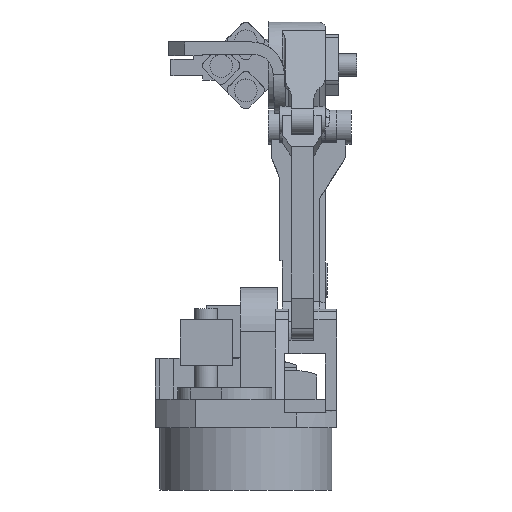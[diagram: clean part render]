
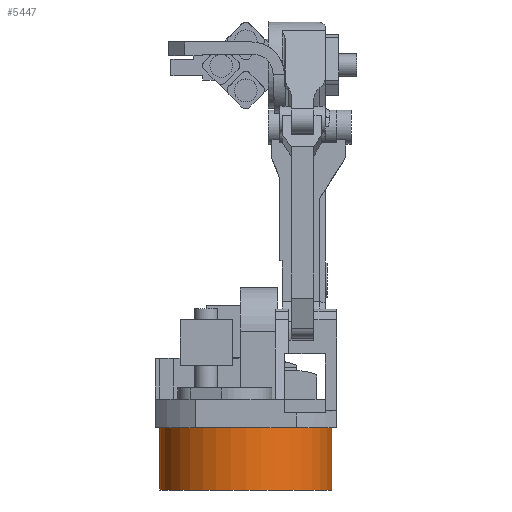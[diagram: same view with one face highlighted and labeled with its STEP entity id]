
A CAD part, left-side view. The second image highlights one B-rep face of the part: STEP entity #5447.
In plain terms, the highlighted cylindrical face has radius 380 mm (diameter 760 mm), a full revolution.
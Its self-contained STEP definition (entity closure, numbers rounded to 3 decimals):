
#161=LINE('',#8160,#736);
#736=VECTOR('',#6468,380.);
#1311=CYLINDRICAL_SURFACE('',#5899,380.);
#1397=FACE_OUTER_BOUND('',#1723,.T.);
#1723=EDGE_LOOP('',(#3602,#3603,#3604,#3605));
#2072=CIRCLE('',#5896,380.);
#2073=CIRCLE('',#5898,380.);
#2272=VERTEX_POINT('',#8154);
#2273=VERTEX_POINT('',#8157);
#2793=EDGE_CURVE('',#2272,#2272,#2072,.T.);
#2794=EDGE_CURVE('',#2273,#2273,#2073,.T.);
#2795=EDGE_CURVE('',#2272,#2273,#161,.T.);
#3602=ORIENTED_EDGE('',*,*,#2793,.F.);
#3603=ORIENTED_EDGE('',*,*,#2795,.T.);
#3604=ORIENTED_EDGE('',*,*,#2794,.T.);
#3605=ORIENTED_EDGE('',*,*,#2795,.F.);
#5447=ADVANCED_FACE('',(#1397),#1311,.T.);
#5896=AXIS2_PLACEMENT_3D('',#8155,#6460,#6461);
#5898=AXIS2_PLACEMENT_3D('',#8158,#6464,#6465);
#5899=AXIS2_PLACEMENT_3D('',#8159,#6466,#6467);
#6460=DIRECTION('center_axis',(0.,0.,1.));
#6461=DIRECTION('ref_axis',(1.,0.,0.));
#6464=DIRECTION('center_axis',(0.,0.,1.));
#6465=DIRECTION('ref_axis',(1.,0.,0.));
#6466=DIRECTION('center_axis',(0.,0.,1.));
#6467=DIRECTION('ref_axis',(1.,0.,0.));
#6468=DIRECTION('',(0.,0.,-1.));
#8154=CARTESIAN_POINT('',(-380.,0.,275.));
#8155=CARTESIAN_POINT('Origin',(0.,0.,275.));
#8157=CARTESIAN_POINT('',(-380.,0.,0.));
#8158=CARTESIAN_POINT('Origin',(0.,0.,0.));
#8159=CARTESIAN_POINT('Origin',(0.,0.,137.5));
#8160=CARTESIAN_POINT('',(-380.,0.,137.5));
